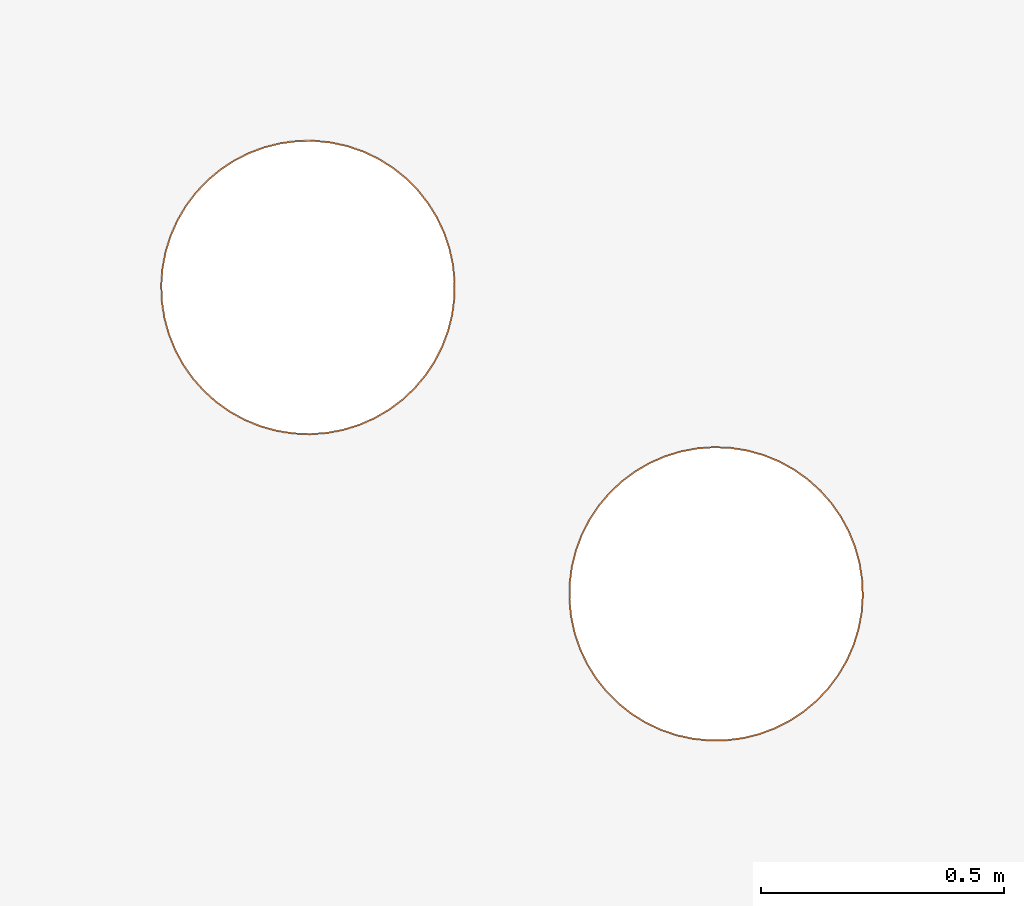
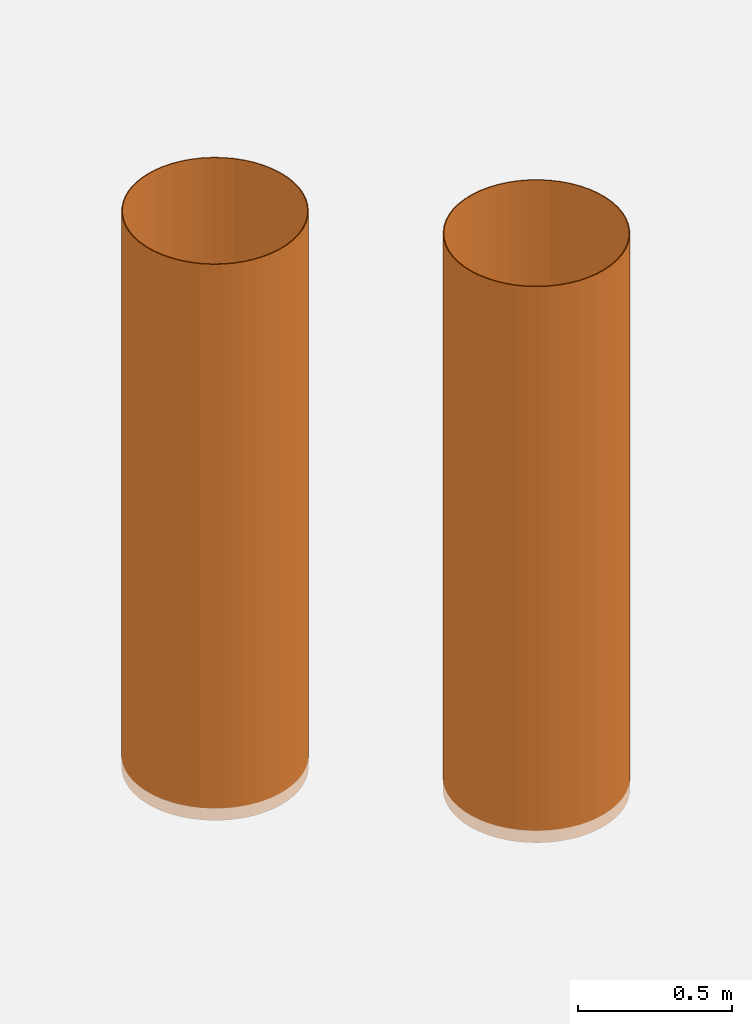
# One storey, part 28 of 28: 2 proxies.
"""IFC2X3 building model written with IfcOpenShell, lengths in metres."""

from ifc_helpers import new_model, entity, si_unit, converted_unit, derived_unit, direction, frame, frame_2d, origin, place, context, subcontext, project, spatial, hollow_circle, extrude, source, transform, mapped, material, type_object, type_shapes, element, save


model = new_model("IFC2X3")

# Units and contexts
model_context = context("Model", 3, precision=1e-05, world=origin(), true_north=direction((6.123031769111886e-17, 1.0)))
body_context = subcontext(model_context, "Body", "Model", "MODEL_VIEW")
ifc_project = project(units=[si_unit("LENGTHUNIT", "METRE"), si_unit("AREAUNIT", "SQUARE_METRE"), si_unit("VOLUMEUNIT", "CUBIC_METRE"), converted_unit("PLANEANGLEUNIT", "DEGREE", entity("IfcRatioMeasure", 0.017453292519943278), si_unit("PLANEANGLEUNIT", "RADIAN"), dimensions=[0, 0, 0, 0, 0, 0, 0]), si_unit("MASSUNIT", "GRAM", prefix="KILO"), derived_unit("MASSDENSITYUNIT", [(si_unit("MASSUNIT", "GRAM", prefix="KILO"), 1), (si_unit("LENGTHUNIT", "METRE"), -3)]), derived_unit("IONCONCENTRATIONUNIT", [(si_unit("MASSUNIT", "GRAM", prefix="KILO"), 1), (si_unit("LENGTHUNIT", "METRE"), -3)]), derived_unit("MOMENTOFINERTIAUNIT", [(si_unit("LENGTHUNIT", "METRE"), 4)]), si_unit("TIMEUNIT", "SECOND"), si_unit("FREQUENCYUNIT", "HERTZ"), si_unit("THERMODYNAMICTEMPERATUREUNIT", "DEGREE_CELSIUS"), derived_unit("THERMALTRANSMITTANCEUNIT", [(si_unit("MASSUNIT", "GRAM", prefix="KILO"), 1), (si_unit("THERMODYNAMICTEMPERATUREUNIT", "KELVIN"), -1), (si_unit("TIMEUNIT", "SECOND"), -3)]), derived_unit("THERMALCONDUCTANCEUNIT", [(si_unit("MASSUNIT", "GRAM", prefix="KILO"), 1), (si_unit("THERMODYNAMICTEMPERATUREUNIT", "KELVIN"), -1), (si_unit("TIMEUNIT", "SECOND"), -3), (si_unit("LENGTHUNIT", "METRE"), 1)]), derived_unit("VOLUMETRICFLOWRATEUNIT", [(si_unit("LENGTHUNIT", "METRE"), 3), (si_unit("TIMEUNIT", "SECOND"), -1)]), derived_unit("MASSFLOWRATEUNIT", [(si_unit("MASSUNIT", "GRAM", prefix="KILO"), 1), (si_unit("TIMEUNIT", "SECOND"), -1)]), derived_unit("ROTATIONALFREQUENCYUNIT", [(si_unit("TIMEUNIT", "SECOND"), -1)]), si_unit("ELECTRICCURRENTUNIT", "AMPERE"), si_unit("ELECTRICVOLTAGEUNIT", "VOLT"), si_unit("POWERUNIT", "WATT"), si_unit("FORCEUNIT", "NEWTON", prefix="KILO"), si_unit("ILLUMINANCEUNIT", "LUX"), si_unit("LUMINOUSFLUXUNIT", "LUMEN"), si_unit("LUMINOUSINTENSITYUNIT", "CANDELA"), derived_unit("USERDEFINED", [(si_unit("MASSUNIT", "GRAM", prefix="KILO"), -1), (si_unit("LENGTHUNIT", "METRE"), -2), (si_unit("TIMEUNIT", "SECOND"), 3), (si_unit("LUMINOUSFLUXUNIT", "LUMEN"), 1)]), derived_unit("USERDEFINED", [(si_unit("MASSUNIT", "GRAM", prefix="KILO"), 1), (si_unit("TIMEUNIT", "SECOND"), -3), (si_unit("LENGTHUNIT", "METRE"), 3), (si_unit("ELECTRICCURRENTUNIT", "AMPERE"), -2)]), derived_unit("SOUNDPOWERUNIT", [(si_unit("MASSUNIT", "GRAM", prefix="KILO"), 1), (si_unit("TIMEUNIT", "SECOND"), -3), (si_unit("LENGTHUNIT", "METRE"), 2)]), derived_unit("SOUNDPRESSUREUNIT", [(si_unit("MASSUNIT", "GRAM", prefix="KILO"), 1), (si_unit("LENGTHUNIT", "METRE"), -1), (si_unit("TIMEUNIT", "SECOND"), -2)]), derived_unit("LINEARVELOCITYUNIT", [(si_unit("LENGTHUNIT", "METRE"), 1), (si_unit("TIMEUNIT", "SECOND"), -1)]), si_unit("PRESSUREUNIT", "PASCAL"), derived_unit("USERDEFINED", [(si_unit("MASSUNIT", "GRAM", prefix="KILO"), 1), (si_unit("LENGTHUNIT", "METRE"), -2), (si_unit("TIMEUNIT", "SECOND"), -2)]), derived_unit("LINEARFORCEUNIT", [(si_unit("MASSUNIT", "GRAM", prefix="KILO"), 1), (si_unit("TIMEUNIT", "SECOND"), -2)]), derived_unit("PLANARFORCEUNIT", [(si_unit("MASSUNIT", "GRAM", prefix="KILO"), 1), (si_unit("LENGTHUNIT", "METRE"), -1), (si_unit("TIMEUNIT", "SECOND"), -2)]), derived_unit("SPECIFICHEATCAPACITYUNIT", [(si_unit("THERMODYNAMICTEMPERATUREUNIT", "KELVIN"), -1), (si_unit("LENGTHUNIT", "METRE"), 2), (si_unit("TIMEUNIT", "SECOND"), -2)]), derived_unit("HEATINGVALUEUNIT", [(si_unit("LENGTHUNIT", "METRE"), 2), (si_unit("TIMEUNIT", "SECOND"), -2)]), derived_unit("VAPORPERMEABILITYUNIT", [(si_unit("LENGTHUNIT", "METRE"), -1), (si_unit("TIMEUNIT", "SECOND"), 1)]), derived_unit("DYNAMICVISCOSITYUNIT", [(si_unit("MASSUNIT", "GRAM", prefix="KILO"), 1), (si_unit("TIMEUNIT", "SECOND"), -1), (si_unit("LENGTHUNIT", "METRE"), -1)]), derived_unit("THERMALEXPANSIONCOEFFICIENTUNIT", [(si_unit("THERMODYNAMICTEMPERATUREUNIT", "KELVIN"), -1)]), derived_unit("MODULUSOFELASTICITYUNIT", [(si_unit("MASSUNIT", "GRAM", prefix="KILO"), 1), (si_unit("LENGTHUNIT", "METRE"), -1), (si_unit("TIMEUNIT", "SECOND"), -2)]), derived_unit("ISOTHERMALMOISTURECAPACITYUNIT", [(si_unit("LENGTHUNIT", "METRE"), 3), (si_unit("MASSUNIT", "GRAM", prefix="KILO"), -1)]), derived_unit("MOISTUREDIFFUSIVITYUNIT", [(si_unit("TIMEUNIT", "SECOND"), -1), (si_unit("LENGTHUNIT", "METRE"), 2)])], contexts=[model_context])

# Site, building, storey
site_placement = place(None, frame((0.0, 0.0, 235.0), z_axis=(0.0, 0.0, 1.0), x_axis=(-0.7996477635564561, 0.6004693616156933, 0.0)))
site = spatial("IfcSite", under=ifc_project, at=site_placement, Name="Default", CompositionType="ELEMENT")
building_placement = place(site_placement, origin())
building = spatial("IfcBuilding", under=site, at=building_placement, CompositionType="ELEMENT")
storey_placement = place(building_placement, frame((0.0, 0.0, 3.400000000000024)))
storey = spatial("IfcBuildingStorey", under=building, at=storey_placement, Name="PC- Coberta STR", CompositionType="ELEMENT", Elevation=3.400000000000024)

# Proxies
ifc_material = material(Name="<Unnamed>")
building_element_proxy_type_1 = type_object("IfcBuildingElementProxyType", Name="SER- Xemeneia revestiment:SER- Xemeneia revestiment", PredefinedType="NOTDEFINED", material=ifc_material)
shared_shape_1 = source(origin(), body_context, "Body", "SweptSolid", [
    extrude(hollow_circle(Radius=0.303, WallThickness=0.002999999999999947, at=frame_2d((-1.6771016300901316e-19, -4.895100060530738e-16), x_axis=(1.0, 0.0))), origin(), (0.0, 0.0, 1.0), 2.2),
])
type_shapes(building_element_proxy_type_1, [shared_shape_1])
proxy_1_placement = place(storey_placement, frame((20.373147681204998, -27.69819175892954, 0.25)))
element("IfcBuildingElementProxy", 1, at=proxy_1_placement, inside=storey, type_object=building_element_proxy_type_1, material=ifc_material, Name="SER- Xemeneia revestiment:SER- Xemeneia revestiment", ObjectType="SER- Xemeneia revestiment:SER- Xemeneia revestiment", context=body_context, shape_type="MappedRepresentation", body=[
    mapped(shared_shape_1, transform((0.0, 0.0, 0.0), scale=1.0)),
])
building_element_proxy_type_2 = type_object("IfcBuildingElementProxyType", Name="SER- Xemeneia revestiment:SER- Xemeneia revestiment", PredefinedType="NOTDEFINED", material=ifc_material)
shared_shape_2 = source(origin(), body_context, "Body", "SweptSolid", [
    extrude(hollow_circle(Radius=0.303, WallThickness=0.002999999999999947, at=frame_2d((-1.6771016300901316e-19, -1.4314232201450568e-15), x_axis=(1.0, 0.0))), origin(), (0.0, 0.0, 1.0), 2.2),
])
type_shapes(building_element_proxy_type_2, [shared_shape_2])
proxy_2_placement = place(storey_placement, frame((21.42229122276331, -27.69819175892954, 0.25), z_axis=(0.0, 0.0, 1.0), x_axis=(-1.0, 0.0, 0.0)))
element("IfcBuildingElementProxy", 2, at=proxy_2_placement, inside=storey, type_object=building_element_proxy_type_2, material=ifc_material, Name="SER- Xemeneia revestiment:SER- Xemeneia revestiment", ObjectType="SER- Xemeneia revestiment:SER- Xemeneia revestiment", context=body_context, shape_type="MappedRepresentation", body=[
    mapped(shared_shape_2, transform((0.0, 0.0, 0.0), scale=1.0)),
])

save(model, "model.ifc")
